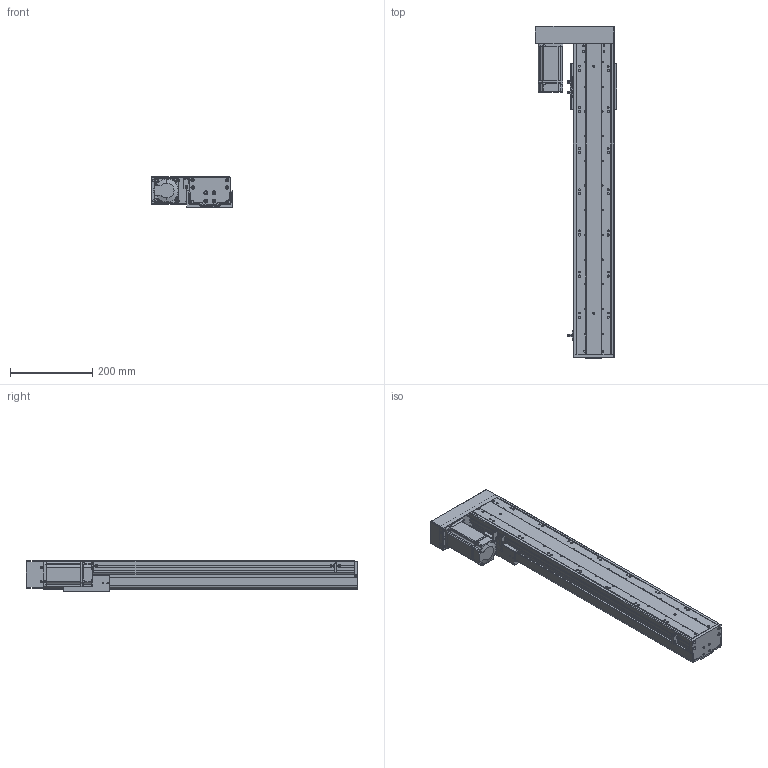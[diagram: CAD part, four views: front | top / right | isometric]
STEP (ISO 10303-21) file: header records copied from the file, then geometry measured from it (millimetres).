
FILE_DESCRIPTION (( 'STEP AP203' ), '1' );
FILE_NAME ('RY100FBS-L1610-300-LK(15双轨）.SLDASM_550.step', '2021-02-23T01:49:21', ( '盈信电脑' ), ( '东莞市道滘镇水果街19号' ), 'SwSTEP 2.0', 'SolidWorks 2012', '' );
FILE_SCHEMA (( 'CONFIG_CONTROL_DESIGN' ));
Products named in the file (14): RY100FBS-L1610-300-LK(15双轨）.SLDASM_550; RY100FBS-后盖板(15双轨）; RY100FBS-酘衵殏萇儂啣; RY100FBS-酘衵殏萇儂欶; 侂狟400W侜督萇儂; 15; RY100FBS-嫖萇覜茼え; 覜茼ん672; RY100FBS-铝滑块（16丝杆）; 滅袉蝶18-24; RY100FBS-转折支撑座（15双轨）; 滅袉蝶18-15; RY100FBS-300蛌殏奻裔啣-LK_550; RY100FBS-300蛌殏菁釱-LK_550
Assembly tree (15 placements, depth 3):
  RY100FBS-L1610-300-LK(15双轨）.SLDASM_550
    RY100FBS-300蛌殏菁釱-LK_550
    RY100FBS-300蛌殏奻裔啣-LK_550
    RY100FBS-转折支撑座（15双轨）
    滅袉蝶18-24
    滅袉蝶18-15
    RY100FBS-铝滑块（16丝杆）
    覜茼ん672  x3
    RY100FBS-嫖萇覜茼え
    侂狟400W侜督萇儂
      15
    RY100FBS-后盖板(15双轨）
    RY100FBS-酘衵殏萇儂啣
    RY100FBS-酘衵殏萇儂欶
Bounding box: 198.75 x 807 x 74 mm (x, y, z)
Volume: 2308150.9 mm3; surface area: 838739.9 mm2
Topology: 14 solids, 14 shells, 1611 faces, 4556 edges, 2954 vertices
Faces by surface type: cylinder 767, plane 692, cone 126, bspline 26
Entity records: 50671 total; most frequent: CARTESIAN_POINT 10756, DIRECTION 8131, ORIENTED_EDGE 7988, EDGE_CURVE 3994, AXIS2_PLACEMENT_3D 2933, VERTEX_POINT 2634, VECTOR 2265, LINE 2265
